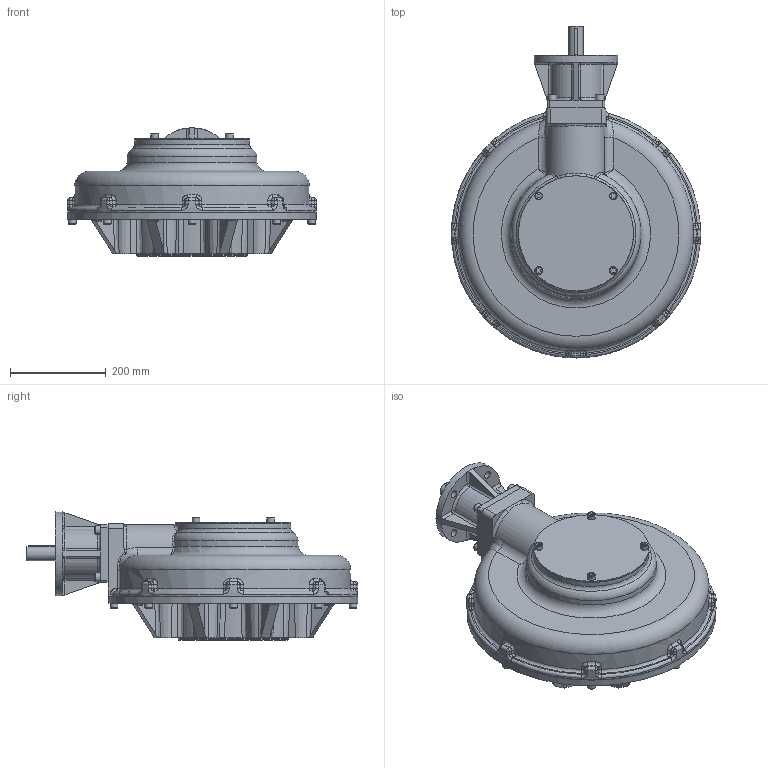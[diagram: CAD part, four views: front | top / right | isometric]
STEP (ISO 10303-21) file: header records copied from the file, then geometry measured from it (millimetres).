
FILE_DESCRIPTION( ( 'Unknown' ), '1' );
FILE_NAME( 'X:/CURRENT/PUB/IB/IB-2011/Models/IB - 3D Models Simplified STEP/PUBIB12-F14-F30_simplified.stp', 'Unknown', ( 'Unknown' ), ( 'Unknown' ), 'PSStep 15.0.49', 'Unknown', ' ' );
FILE_SCHEMA( ( 'AUTOMOTIVE_DESIGN { 1 0 10303 214 1 1 1 1 }' ) );
Length unit declared in the file: millimetre
Products named in the file (27): 1; 2; 3; 4; 5; 6; 7; 8; 9; 10; 11; 12; 13; 14; 15; 16; 17; 18; 19; 20; 21; 22; 23; 24; 25; 26; 27
Bounding box: 520 x 692.73 x 267.9 mm (x, y, z)
Surface area: 1053999.1 mm2 (no closed solid volume)
Topology: 0 solids, 839 shells, 839 faces, 3940 edges, 3769 vertices
Faces by surface type: plane 229, cylinder 193, torus 141, bspline 119, sphere 94, cone 63
Full cylindrical faces by diameter (mm): 6.647 x1, 16 x12, 16.5 x4, 17.5 x8, 18 x4, 30 x1, 50 x1, 100 x1, 130.175 x1, 175 x1, 229.95 x1, 239.95 x1, 240 x1, 520 x1
Entity records: 73503 total; most frequent: CARTESIAN_POINT 38388, DIRECTION 6061, VERTEX_POINT 3736, ORIENTED_EDGE 3727, EDGE_CURVE 3727, AXIS2_PLACEMENT_3D 2429, CIRCLE 1682, LINE 1203
